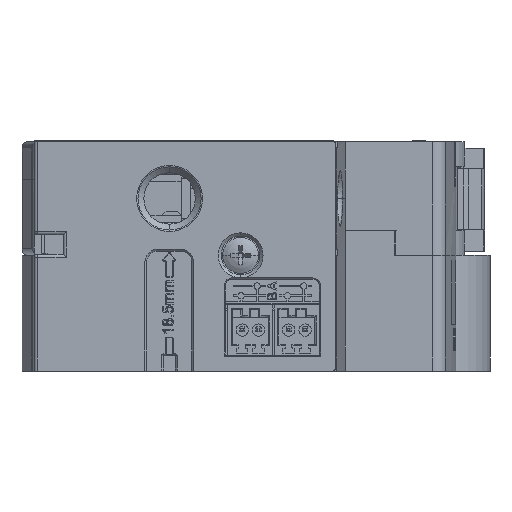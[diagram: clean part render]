
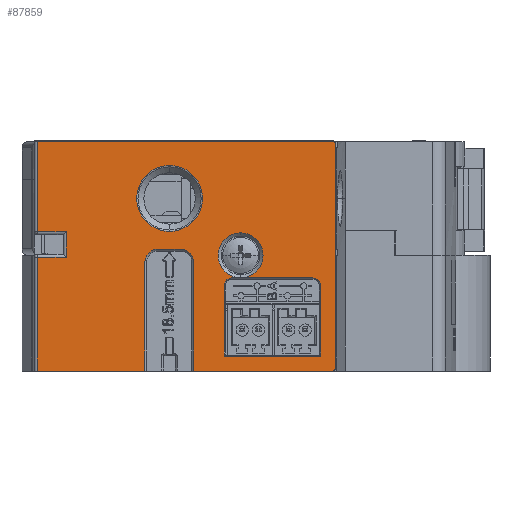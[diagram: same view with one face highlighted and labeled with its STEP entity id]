
A CAD part, front view. The second image highlights one B-rep face of the part: STEP entity #87859.
In plain terms, the highlighted planar face has unit normal (0, -1, 0).
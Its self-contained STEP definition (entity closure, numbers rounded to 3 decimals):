
#16641=DIRECTION('',(0.,0.,-1.));
#16642=VECTOR('',#16641,16.869);
#16643=CARTESIAN_POINT('',(21.208,-18.5,
-18.831));
#16644=LINE('',#16643,#16642);
#16645=CARTESIAN_POINT('',(19.108,-18.5,-18.831));
#16646=DIRECTION('',(0.,1.,0.));
#16647=DIRECTION('',(0.,0.,1.));
#16648=AXIS2_PLACEMENT_3D('',#16645,#16646,#16647);
#16650=DIRECTION('',(1.,0.,0.));
#16651=VECTOR('',#16650,3.4);
#16652=CARTESIAN_POINT('',(15.708,-18.5,
-16.731));
#16653=LINE('',#16652,#16651);
#16654=CARTESIAN_POINT('',(15.708,-18.5,-18.831));
#16655=DIRECTION('',(0.,1.,0.));
#16656=DIRECTION('',(-1.,0.,0.));
#16657=AXIS2_PLACEMENT_3D('',#16654,#16655,#16656);
#16659=DIRECTION('',(0.,0.,1.));
#16660=VECTOR('',#16659,16.869);
#16661=CARTESIAN_POINT('',(13.608,-18.5,-35.7));
#16662=LINE('',#16661,#16660);
#16663=DIRECTION('',(1.,0.,0.));
#16664=VECTOR('',#16663,16.708);
#16665=CARTESIAN_POINT('',(-3.1,-18.5,-35.7));
#16666=LINE('',#16665,#16664);
#16667=DIRECTION('',(0.,0.,-1.));
#16668=VECTOR('',#16667,17.7);
#16669=CARTESIAN_POINT('',(-3.1,-18.5,-18.));
#16670=LINE('',#16669,#16668);
#16671=DIRECTION('',(-1.,0.,0.));
#16672=VECTOR('',#16671,4.5);
#16673=CARTESIAN_POINT('',(1.4,-18.5,-18.));
#16674=LINE('',#16673,#16672);
#16675=DIRECTION('',(0.,0.,-1.));
#16676=VECTOR('',#16675,4.);
#16677=CARTESIAN_POINT('',(1.4,-18.5,-14.));
#16678=LINE('',#16677,#16676);
#16679=DIRECTION('',(1.,0.,0.));
#16680=VECTOR('',#16679,4.5);
#16681=CARTESIAN_POINT('',(-3.1,-18.5,-14.));
#16682=LINE('',#16681,#16680);
#16683=DIRECTION('',(0.,0.,-1.));
#16684=VECTOR('',#16683,14.);
#16685=CARTESIAN_POINT('',(-3.1,-18.5,0.));
#16686=LINE('',#16685,#16684);
#16687=DIRECTION('',(-1.,0.,0.));
#16688=VECTOR('',#16687,45.9);
#16689=CARTESIAN_POINT('',(42.8,-18.5,0.));
#16690=LINE('',#16689,#16688);
#16691=CARTESIAN_POINT('',(42.8,-18.5,-0.5));
#16692=DIRECTION('',(0.,-1.,0.));
#16693=DIRECTION('',(1.,0.,0.));
#16694=AXIS2_PLACEMENT_3D('',#16691,#16692,#16693);
#16696=DIRECTION('',(0.,0.,1.));
#16697=VECTOR('',#16696,34.7);
#16698=CARTESIAN_POINT('',(43.3,-18.5,-35.2));
#16699=LINE('',#16698,#16697);
#16700=CARTESIAN_POINT('',(42.8,-18.5,-35.2));
#16701=DIRECTION('',(0.,-1.,0.));
#16702=DIRECTION('',(0.,0.,-1.));
#16703=AXIS2_PLACEMENT_3D('',#16700,#16701,#16702);
#16705=DIRECTION('',(1.,0.,0.));
#16706=VECTOR('',#16705,21.592);
#16707=CARTESIAN_POINT('',(21.208,-18.5,-35.7));
#16708=LINE('',#16707,#16706);
#16709=CARTESIAN_POINT('',(26.25,-18.5,-33.2));
#16710=DIRECTION('',(0.,-1.,0.));
#16711=DIRECTION('',(-1.,0.,0.));
#16712=AXIS2_PLACEMENT_3D('',#16709,#16710,#16711);
#16714=DIRECTION('',(1.,0.,0.));
#16715=VECTOR('',#16714,14.4);
#16716=CARTESIAN_POINT('',(26.25,-18.5,
-33.5));
#16717=LINE('',#16716,#16715);
#16718=CARTESIAN_POINT('',(40.65,-18.5,-33.2));
#16719=DIRECTION('',(0.,-1.,0.));
#16720=DIRECTION('',(0.,0.,-1.));
#16721=AXIS2_PLACEMENT_3D('',#16718,#16719,#16720);
#16723=DIRECTION('',(0.,0.,1.));
#16724=VECTOR('',#16723,10.78);
#16725=CARTESIAN_POINT('',(40.95,-18.5,
-33.2));
#16726=LINE('',#16725,#16724);
#16727=CARTESIAN_POINT('',(39.75,-18.5,-22.42));
#16728=DIRECTION('',(0.,-1.,0.));
#16729=DIRECTION('',(1.,0.,0.));
#16730=AXIS2_PLACEMENT_3D('',#16727,#16728,#16729);
#16732=DIRECTION('',(-1.,0.,0.));
#16733=VECTOR('',#16732,12.6);
#16734=CARTESIAN_POINT('',(39.75,-18.5,-21.22));
#16735=LINE('',#16734,#16733);
#16736=CARTESIAN_POINT('',(27.15,-18.5,-22.42));
#16737=DIRECTION('',(0.,-1.,0.));
#16738=DIRECTION('',(0.,0.,1.));
#16739=AXIS2_PLACEMENT_3D('',#16736,#16737,#16738);
#16741=DIRECTION('',(0.,0.,-1.));
#16742=VECTOR('',#16741,10.78);
#16743=CARTESIAN_POINT('',(25.95,-18.5,-22.42));
#16744=LINE('',#16743,#16742);
#16745=CARTESIAN_POINT('',(28.5,-18.5,-17.7));
#16746=DIRECTION('',(0.,1.,0.));
#16747=DIRECTION('',(0.,0.,-1.));
#16748=AXIS2_PLACEMENT_3D('',#16745,#16746,#16747);
#16750=CARTESIAN_POINT('',(28.5,-18.5,-17.7));
#16751=DIRECTION('',(0.,1.,0.));
#16752=DIRECTION('',(0.,0.,1.));
#16753=AXIS2_PLACEMENT_3D('',#16750,#16751,#16752);
#16755=CARTESIAN_POINT('',(17.45,-18.5,-8.85));
#16756=DIRECTION('',(0.,1.,0.));
#16757=DIRECTION('',(0.,0.,-1.));
#16758=AXIS2_PLACEMENT_3D('',#16755,#16756,#16757);
#16760=CARTESIAN_POINT('',(17.45,-18.5,-8.85));
#16761=DIRECTION('',(0.,1.,0.));
#16762=DIRECTION('',(0.,0.,1.));
#16763=AXIS2_PLACEMENT_3D('',#16760,#16761,#16762);
#66117=CARTESIAN_POINT('',(42.8,-18.5,-35.7));
#66118=VERTEX_POINT('',#66117);
#66119=CARTESIAN_POINT('',(43.3,-18.5,-35.2));
#66120=VERTEX_POINT('',#66119);
#66143=CARTESIAN_POINT('',(43.3,-18.5,-0.5));
#66144=VERTEX_POINT('',#66143);
#66237=CARTESIAN_POINT('',(-3.1,-18.5,-14.));
#66238=CARTESIAN_POINT('',(1.4,-18.5,-14.));
#66239=VERTEX_POINT('',#66237);
#66240=VERTEX_POINT('',#66238);
#66245=CARTESIAN_POINT('',(-3.1,-18.5,0.));
#66246=VERTEX_POINT('',#66245);
#66247=CARTESIAN_POINT('',(-3.1,-18.5,-18.));
#66249=VERTEX_POINT('',#66247);
#66251=CARTESIAN_POINT('',(1.4,-18.5,-18.));
#66252=VERTEX_POINT('',#66251);
#66259=CARTESIAN_POINT('',(-3.1,-18.5,-35.7));
#66260=VERTEX_POINT('',#66259);
#66261=CARTESIAN_POINT('',(42.8,-18.5,0.));
#66262=VERTEX_POINT('',#66261);
#66629=CARTESIAN_POINT('',(25.95,-18.5,-33.2));
#66630=CARTESIAN_POINT('',(26.25,-18.5,-33.5));
#66631=VERTEX_POINT('',#66629);
#66632=VERTEX_POINT('',#66630);
#66635=CARTESIAN_POINT('',(40.65,-18.5,-33.5));
#66636=VERTEX_POINT('',#66635);
#66639=CARTESIAN_POINT('',(40.95,-18.5,-33.2));
#66640=VERTEX_POINT('',#66639);
#66645=CARTESIAN_POINT('',(40.95,-18.5,-22.42));
#66646=VERTEX_POINT('',#66645);
#66649=CARTESIAN_POINT('',(39.75,-18.5,-21.22));
#66650=VERTEX_POINT('',#66649);
#66653=CARTESIAN_POINT('',(27.15,-18.5,-21.22));
#66654=VERTEX_POINT('',#66653);
#66657=CARTESIAN_POINT('',(25.95,-18.5,-22.42));
#66658=VERTEX_POINT('',#66657);
#67117=CARTESIAN_POINT('',(28.5,-18.5,-21.2));
#67118=CARTESIAN_POINT('',(28.5,-18.5,-14.2));
#67119=VERTEX_POINT('',#67117);
#67120=VERTEX_POINT('',#67118);
#67129=CARTESIAN_POINT('',(17.45,-18.5,-13.974));
#67130=CARTESIAN_POINT('',(17.45,-18.5,-3.726));
#67131=VERTEX_POINT('',#67129);
#67132=VERTEX_POINT('',#67130);
#67153=CARTESIAN_POINT('',(21.208,-18.5,-35.7));
#67155=VERTEX_POINT('',#67153);
#67159=CARTESIAN_POINT('',(21.208,-18.5,
-18.831));
#67160=VERTEX_POINT('',#67159);
#67161=CARTESIAN_POINT('',(19.108,-18.5,-16.731));
#67162=VERTEX_POINT('',#67161);
#67165=CARTESIAN_POINT('',(15.708,-18.5,
-16.731));
#67166=VERTEX_POINT('',#67165);
#67169=CARTESIAN_POINT('',(13.608,-18.5,-18.831));
#67170=VERTEX_POINT('',#67169);
#67174=CARTESIAN_POINT('',(13.608,-18.5,-35.7));
#67176=VERTEX_POINT('',#67174);
#87798=CARTESIAN_POINT('',(23.1,-18.5,-8.85));
#87799=DIRECTION('',(0.,-1.,0.));
#87800=DIRECTION('',(0.,0.,1.));
#87801=AXIS2_PLACEMENT_3D('',#87798,#87799,#87800);
#87802=PLANE('',#87801);
#87803=ORIENTED_EDGE('',*,*,#87240,.F.);
#87805=ORIENTED_EDGE('',*,*,#87804,.F.);
#87807=ORIENTED_EDGE('',*,*,#87806,.F.);
#87809=ORIENTED_EDGE('',*,*,#87808,.F.);
#87810=ORIENTED_EDGE('',*,*,#87790,.F.);
#87811=ORIENTED_EDGE('',*,*,#87213,.F.);
#87813=ORIENTED_EDGE('',*,*,#87812,.F.);
#87815=ORIENTED_EDGE('',*,*,#87814,.F.);
#87817=ORIENTED_EDGE('',*,*,#87816,.F.);
#87819=ORIENTED_EDGE('',*,*,#87818,.F.);
#87821=ORIENTED_EDGE('',*,*,#87820,.F.);
#87822=ORIENTED_EDGE('',*,*,#87131,.F.);
#87823=ORIENTED_EDGE('',*,*,#87147,.F.);
#87824=ORIENTED_EDGE('',*,*,#87163,.F.);
#87825=ORIENTED_EDGE('',*,*,#87193,.F.);
#87826=ORIENTED_EDGE('',*,*,#87206,.F.);
#87827=EDGE_LOOP('',(#87803,#87805,#87807,#87809,#87810,#87811,#87813,#87815,
#87817,#87819,#87821,#87822,#87823,#87824,#87825,#87826));
#87828=FACE_OUTER_BOUND('',#87827,.F.);
#87830=ORIENTED_EDGE('',*,*,#87829,.T.);
#87832=ORIENTED_EDGE('',*,*,#87831,.T.);
#87834=ORIENTED_EDGE('',*,*,#87833,.T.);
#87836=ORIENTED_EDGE('',*,*,#87835,.T.);
#87838=ORIENTED_EDGE('',*,*,#87837,.T.);
#87840=ORIENTED_EDGE('',*,*,#87839,.T.);
#87842=ORIENTED_EDGE('',*,*,#87841,.T.);
#87844=ORIENTED_EDGE('',*,*,#87843,.T.);
#87845=EDGE_LOOP('',(#87830,#87832,#87834,#87836,#87838,#87840,#87842,#87844));
#87846=FACE_BOUND('',#87845,.F.);
#87848=ORIENTED_EDGE('',*,*,#87847,.F.);
#87850=ORIENTED_EDGE('',*,*,#87849,.F.);
#87851=EDGE_LOOP('',(#87848,#87850));
#87852=FACE_BOUND('',#87851,.F.);
#87854=ORIENTED_EDGE('',*,*,#87853,.F.);
#87856=ORIENTED_EDGE('',*,*,#87855,.F.);
#87857=EDGE_LOOP('',(#87854,#87856));
#87858=FACE_BOUND('',#87857,.F.);
#87859=ADVANCED_FACE('',(#87828,#87846,#87852,#87858),#87802,.T.);
#16649=CIRCLE('',#16648,2.1);
#16658=CIRCLE('',#16657,2.1);
#16695=CIRCLE('',#16694,0.5);
#16704=CIRCLE('',#16703,0.5);
#16713=CIRCLE('',#16712,0.3);
#16722=CIRCLE('',#16721,0.3);
#16731=CIRCLE('',#16730,1.2);
#16740=CIRCLE('',#16739,1.2);
#16749=CIRCLE('',#16748,3.5);
#16754=CIRCLE('',#16753,3.5);
#16759=CIRCLE('',#16758,5.124);
#16764=CIRCLE('',#16763,5.124);
#87131=EDGE_CURVE('',#66262,#66246,#16690,.T.);
#87147=EDGE_CURVE('',#66144,#66262,#16695,.T.);
#87163=EDGE_CURVE('',#66120,#66144,#16699,.T.);
#87193=EDGE_CURVE('',#66118,#66120,#16704,.T.);
#87206=EDGE_CURVE('',#67155,#66118,#16708,.T.);
#87213=EDGE_CURVE('',#66260,#67176,#16666,.T.);
#87240=EDGE_CURVE('',#67160,#67155,#16644,.T.);
#87790=EDGE_CURVE('',#67176,#67170,#16662,.T.);
#87804=EDGE_CURVE('',#67162,#67160,#16649,.T.);
#87806=EDGE_CURVE('',#67166,#67162,#16653,.T.);
#87808=EDGE_CURVE('',#67170,#67166,#16658,.T.);
#87812=EDGE_CURVE('',#66249,#66260,#16670,.T.);
#87814=EDGE_CURVE('',#66252,#66249,#16674,.T.);
#87816=EDGE_CURVE('',#66240,#66252,#16678,.T.);
#87818=EDGE_CURVE('',#66239,#66240,#16682,.T.);
#87820=EDGE_CURVE('',#66246,#66239,#16686,.T.);
#87829=EDGE_CURVE('',#66631,#66632,#16713,.T.);
#87831=EDGE_CURVE('',#66632,#66636,#16717,.T.);
#87833=EDGE_CURVE('',#66636,#66640,#16722,.T.);
#87835=EDGE_CURVE('',#66640,#66646,#16726,.T.);
#87837=EDGE_CURVE('',#66646,#66650,#16731,.T.);
#87839=EDGE_CURVE('',#66650,#66654,#16735,.T.);
#87841=EDGE_CURVE('',#66654,#66658,#16740,.T.);
#87843=EDGE_CURVE('',#66658,#66631,#16744,.T.);
#87847=EDGE_CURVE('',#67119,#67120,#16749,.T.);
#87849=EDGE_CURVE('',#67120,#67119,#16754,.T.);
#87853=EDGE_CURVE('',#67131,#67132,#16759,.T.);
#87855=EDGE_CURVE('',#67132,#67131,#16764,.T.);
